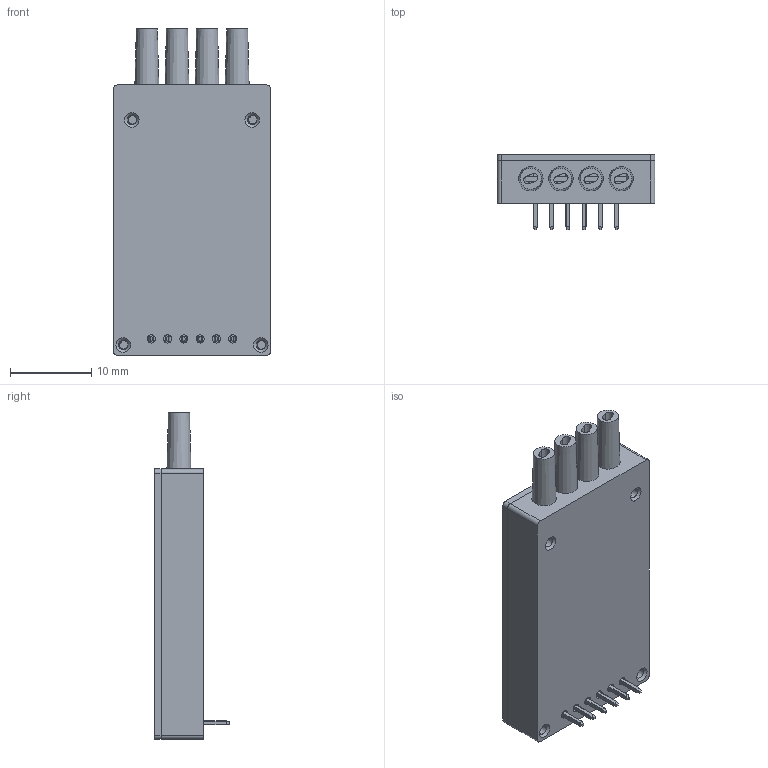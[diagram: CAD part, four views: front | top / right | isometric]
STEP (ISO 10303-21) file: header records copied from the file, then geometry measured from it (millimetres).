
FILE_DESCRIPTION (( 'STEP AP203' ), '1' );
FILE_NAME ('4channels power monitor array-2.STEP', '2026-04-10T16:31:18', ( 'cad' ), ( '' ), 'SwSTEP 2.0', 'SolidWorks 2017', '' );
FILE_SCHEMA (( 'CONFIG_CONTROL_DESIGN' ));
Length unit declared in the file: millimetre
Products named in the file (26): 2PH1-18-UA-18; 2PH1-18-UA-9; Part_1; 2PH1-18-UA-19; 2PH1-18-UA-10; 2PH1-18-UA-1; 2PH1-18-UA; 2PH1-18-UA-11; 2PH1-18-UA-2; 錨璃180^4channels power monitor array-2; 2PH1-18-UA-12; 2PH1-18-UA-3; 1002596_cover; 2PH1-18-UA-13; 2PH1-18-UA-4; Rubber boot 2 fiber; 2PH1-18-UA-15; 2PH1-18-UA-5; 91430A153_18-8 Stainless Steel Slotted Flat Head Screw; 2PH1-18-UA-16; 2PH1-18-UA-6; 1002595_base; 4channels power monitor array-2; 2PH1-18-UA-17; 2PH1-18-UA-7; 8channels power monitor array.STEP
Assembly tree (31 placements, depth 3):
  4channels power monitor array-2
    8channels power monitor array.STEP
      1002595_base
    2PH1-18-UA
      Part_1
      2PH1-18-UA-1
      2PH1-18-UA-2
      2PH1-18-UA-3
      2PH1-18-UA-4
      2PH1-18-UA-5
      2PH1-18-UA-6
      2PH1-18-UA-7
      2PH1-18-UA-9
      2PH1-18-UA-10
      2PH1-18-UA-11
      2PH1-18-UA-12
      2PH1-18-UA-13
      2PH1-18-UA-15
      2PH1-18-UA-16
      2PH1-18-UA-17
      2PH1-18-UA-18
      2PH1-18-UA-19
    錨璃180^4channels power monitor array-2
    1002596_cover
    Rubber boot 2 fiber  x4
    91430A153_18-8 Stainless Steel Slotted Flat Head Screw  x4
Bounding box: 19.4 x 9.2 x 40.11 mm (x, y, z)
Volume: 1712.3 mm3; surface area: 4813 mm2
Topology: 29 solids, 29 shells, 903 faces, 2283 edges, 1393 vertices
Faces by surface type: cylinder 396, plane 359, bspline 116, cone 32
Full cylindrical faces by diameter (mm): 1 x12, 1.191 x2, 1.2 x30, 1.4 x4, 3 x4, 4.6 x4
Entity records: 30274 total; most frequent: CARTESIAN_POINT 9433, ORIENTED_EDGE 3830, DIRECTION 3588, EDGE_CURVE 1915, AXIS2_PLACEMENT_3D 1251, VERTEX_POINT 1208, VECTOR 1086, LINE 1086
